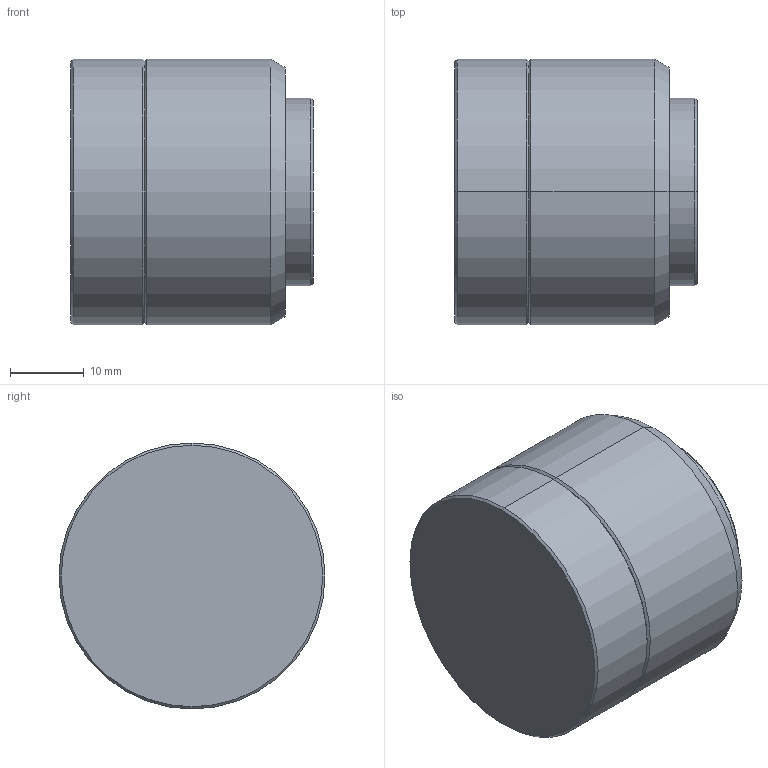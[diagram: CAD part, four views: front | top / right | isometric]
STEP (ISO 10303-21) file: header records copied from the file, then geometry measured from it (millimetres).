
FILE_DESCRIPTION (( 'STEP AP203' ), '1' );
FILE_NAME ('WWT230-025-108.STEP', '2021-07-13T02:06:13', ( '' ), ( '' ), 'SwSTEP 2.0', 'SolidWorks 2017', '' );
FILE_SCHEMA (( 'CONFIG_CONTROL_DESIGN' ));
Length unit declared in the file: millimetre
Products named in the file (1): WWT230-025-108
Bounding box: 32.8 x 36 x 36 mm (x, y, z)
Volume: 31297.3 mm3; surface area: 5512.2 mm2
Topology: 1 solids, 1 shells, 19 faces, 36 edges, 20 vertices
Faces by surface type: cone 10, cylinder 6, plane 3
Entity records: 551 total; most frequent: DIRECTION 96, CARTESIAN_POINT 76, ORIENTED_EDGE 72, AXIS2_PLACEMENT_3D 40, EDGE_CURVE 36, VERTEX_POINT 20, CIRCLE 20, EDGE_LOOP 20
